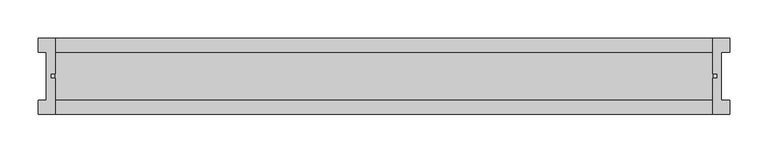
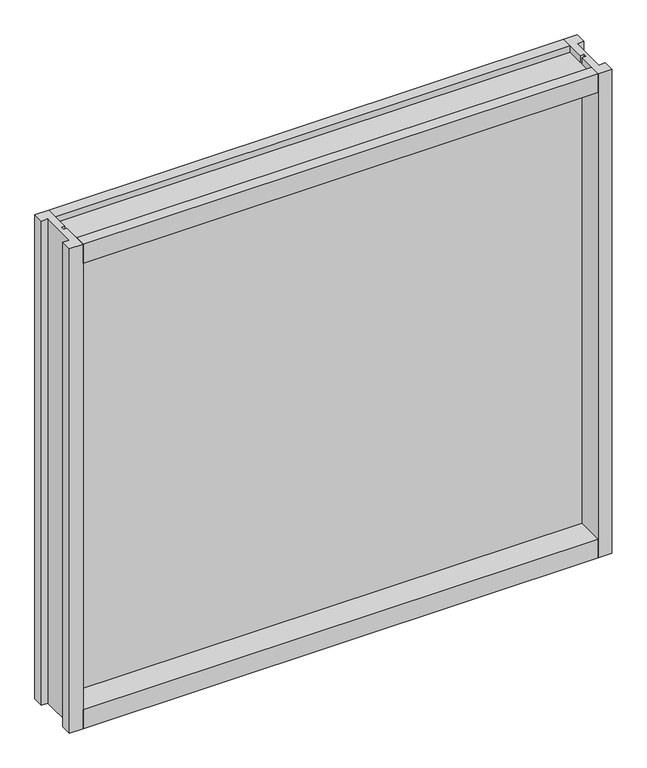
"""IFC4 building model written with IfcOpenShell, lengths in millimetres: proxy geometry, Panel-Clerestory-Teknion-Optos-Altos_Monolithic_Fascias : FYCG."""

from ifc_helpers import new_model, si_unit, frame, origin, place, context, project, spatial, polyline, outline, extrude, source, transform, mapped, element, save


def specialty_equipment_a37d2f72(model_context):
    return source(origin(), model_context, "Body", "SweptSolid", [
        extrude(outline(polyline([(-454.0305562, 50.0558594), (-431.2102437, 50.0558594), (-431.2102437, 2.9765625), (-437.3062455, 2.9765625), (-437.3062455, -2.9765625), (-431.2102437, -2.9765625), (-431.2102437, -50.0558594), (-454.0305562, -50.0558594), (-454.0305562, -31.2040001), (-443.2157125, -31.2040001), (-443.2157125, 31.2040001), (-454.0305562, 31.2040001), (-454.0305562, 50.0558594)])), frame((0.0, 0.0, 3.175), z_axis=(0.0, 0.0, 1.0), x_axis=(1.0, 0.0, 0.0)), (0.0, 0.0, 1.0), 856.8718389),
        extrude(outline(polyline([(454.0305563, 50.0558594), (454.0305563, 31.2040001), (442.6005563, 31.2040001), (442.6005563, -31.2040001), (454.0305563, -31.2040001), (454.0305563, -50.0558594), (431.2102438, -50.0558594), (431.2102438, -2.9765625), (437.3062455, -2.9765625), (437.3062455, 2.9765625), (431.2102438, 2.9765625), (431.2102438, 50.0558594), (454.0305563, 50.0558594)])), frame((0.0, 0.0, 3.175), z_axis=(0.0, 0.0, 1.0), x_axis=(1.0, 0.0, 0.0)), (0.0, 0.0, 1.0), 856.8718389),
        extrude(outline(polyline([(50.0558594, 827.026838), (2.9765625, 827.026838), (2.9765625, 833.1228398), (-2.9765625, 833.1228398), (-2.9765625, 827.026838), (-50.0558594, 827.026838), (-50.0558594, 860.0468389), (-31.2040001, 860.0468389), (-31.2040001, 848.616839), (31.2040001, 848.616839), (31.2040001, 860.0468389), (50.0558594, 860.0468389), (50.0558594, 827.026838)])), frame((-431.2102437, 0.0, 0.0), z_axis=(1.0, 0.0, 0.0), x_axis=(0.0, 1.0, 0.0)), (0.0, 0.0, 1.0), 862.4204875),
        extrude(outline(polyline([(50.0558594, 36.1950009), (50.0558594, 3.175), (31.2040001, 3.175), (31.2040001, 14.605), (-31.2040001, 14.605), (-31.2040001, 3.175), (-50.0558594, 3.175), (-50.0558594, 36.1950009), (-2.9765625, 36.1950009), (-2.9765625, 30.0989992), (2.9765625, 30.0989992), (2.9765625, 36.1950009), (50.0558594, 36.1950009)])), frame((-431.2102437, 0.0, 0.0), z_axis=(1.0, 0.0, 0.0), x_axis=(0.0, 1.0, 0.0)), (0.0, 0.0, 1.0), 862.4204875),
        extrude(outline(polyline([(439.5680805, 2.9765625), (439.5680805, -2.9765625), (-439.5680805, -2.9765625), (-439.5680805, 2.9765625), (439.5680805, 2.9765625)])), frame((0.0, 0.0, 30.0989992), z_axis=(0.0, 0.0, 1.0), x_axis=(1.0, 0.0, 0.0)), (0.0, 0.0, 1.0), 803.0238406),
    ])


if __name__ == "__main__":
    model = new_model("IFC4")
    model_context = context("Model", 3, world=origin())
    ifc_project = project(units=[si_unit("LENGTHUNIT", "METRE", prefix="MILLI")], contexts=[model_context])
    site = spatial("IfcSite", under=ifc_project)
    building = spatial("IfcBuilding", under=site)
    placement = place(None, origin())
    specialty_equipment_shape = specialty_equipment_a37d2f72(model_context)
    element("IfcBuildingElementProxy", 1, Name="Panel-Clerestory-Teknion-Optos-Altos_Monolithic_Fascias : FYCG", ObjectType="Panel-Clerestory-Teknion-Optos-Altos_Monolithic_Fascias : FYCG", at=placement, inside=building, context=model_context, shape_type="MappedRepresentation", body=[
        mapped(specialty_equipment_shape, transform((0.0, 0.0, 0.0), x_axis=(1.0, 0.0, 0.0), y_axis=(0.0, 1.0, 0.0), z_axis=(0.0, 0.0, 1.0))),
    ])
    save(model, "model.ifc")
